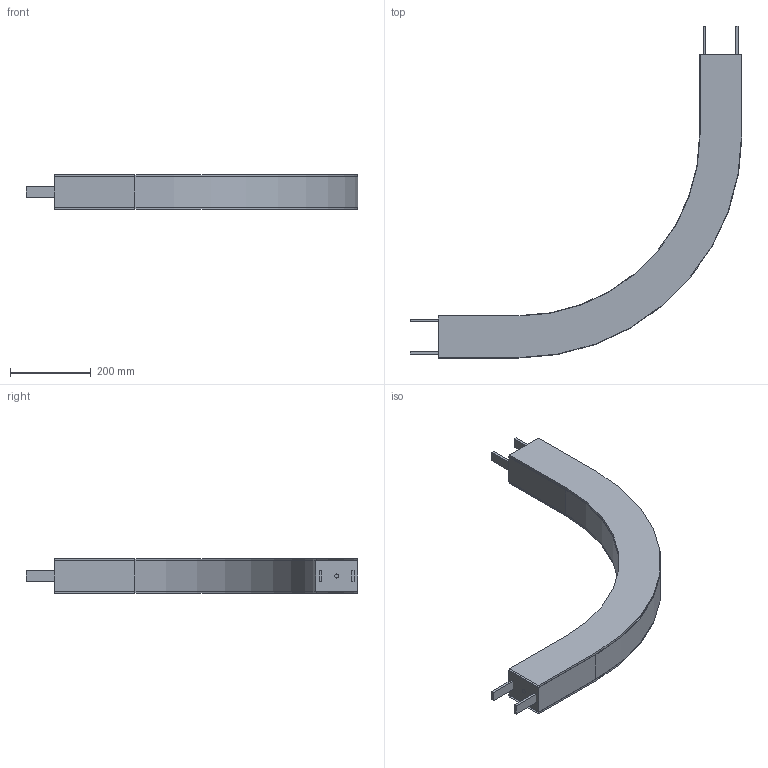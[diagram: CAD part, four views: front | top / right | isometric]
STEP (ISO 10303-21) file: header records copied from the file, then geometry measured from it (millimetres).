
FILE_DESCRIPTION(/* description */ ('Horizontaler Gleitbogen, 90°, R500'),/* implementation_level */ '2;1');
FILE_NAME(/* name */ 'T:\vdz0\Step Daten Website\modulflex FH-System\Horizontale Gleitbögen\FHBP 90R500_44015.stp',/* time_stamp */ '2024-09-03T12:07:53+02:00',/* author */ ('lzb0'),/* organization */ ('modular automation GmbH'),/* preprocessor_version */ 'ST-DEVELOPER v18.1',/* originating_system */ 'Autodesk Inventor 2021',/* authorisation */ '');
FILE_SCHEMA (('AUTOMOTIVE_DESIGN { 1 0 10303 214 3 1 1 }'));
Length unit declared in the file: millimetre
Products named in the file (1): FHBP 90R500
Bounding box: 822.5 x 822.5 x 86 mm (x, y, z)
Volume: 9419010.5 mm3; surface area: 993504.5 mm2
Topology: 5 solids, 9 shells, 52 faces, 126 edges, 84 vertices
Faces by surface type: plane 44, cylinder 8
Full cylindrical faces by diameter (mm): 10 x2
Entity records: 1596 total; most frequent: CARTESIAN_POINT 270, DIRECTION 250, ORIENTED_EDGE 232, EDGE_CURVE 126, LINE 110, VECTOR 110, VERTEX_POINT 84, AXIS2_PLACEMENT_3D 70
